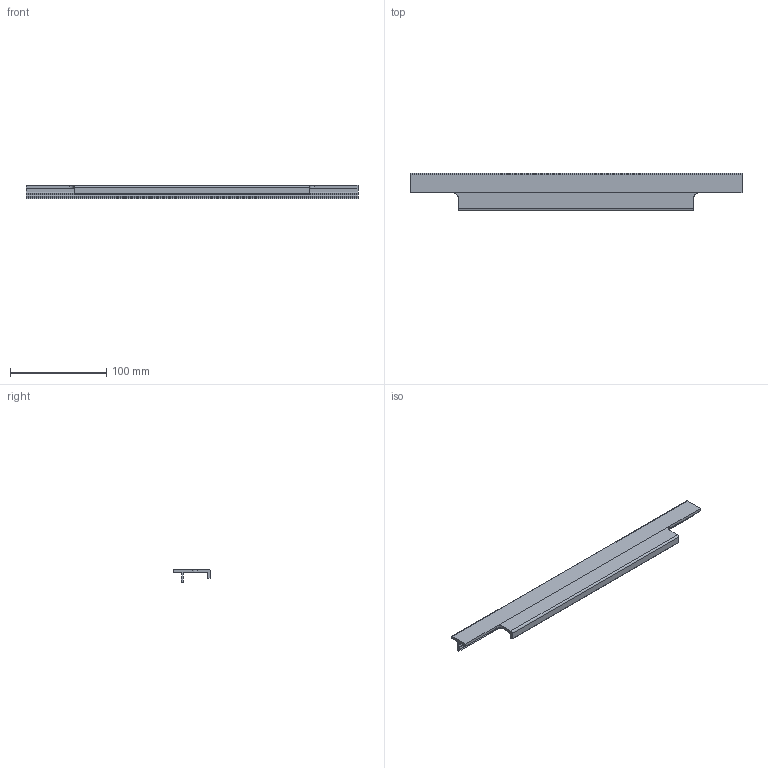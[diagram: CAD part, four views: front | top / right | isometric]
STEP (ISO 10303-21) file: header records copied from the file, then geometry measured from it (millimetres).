
FILE_DESCRIPTION( ( '' ), '1' );
FILE_NAME( 'C:/Documents and Settings/Nikhil/Desktop/Nik/Done/9105816.stp', '2013-10-23T08:18:38', ( '' ), ( '' ), ' ', ' ', ' ' );
FILE_SCHEMA( ( 'automotive_design' ) );
Length unit declared in the file: millimetre
Products named in the file (1): 1
Bounding box: 345 x 39 x 14 mm (x, y, z)
Volume: 46410.3 mm3; surface area: 35989.8 mm2
Topology: 1 solids, 1 shells, 40 faces, 112 edges, 74 vertices
Faces by surface type: plane 30, cylinder 10
Entity records: 2554 total; most frequent: STYLED_ITEM 227, PRESENTATION_STYLE_ASSIGNMENT 227, CARTESIAN_POINT 227, COLOUR_RGB 227, ORIENTED_EDGE 224, DIRECTION 214, EDGE_CURVE 112, CURVE_STYLE 112
